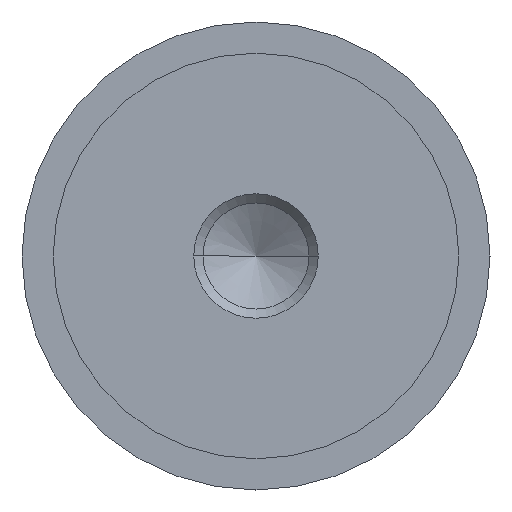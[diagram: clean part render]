
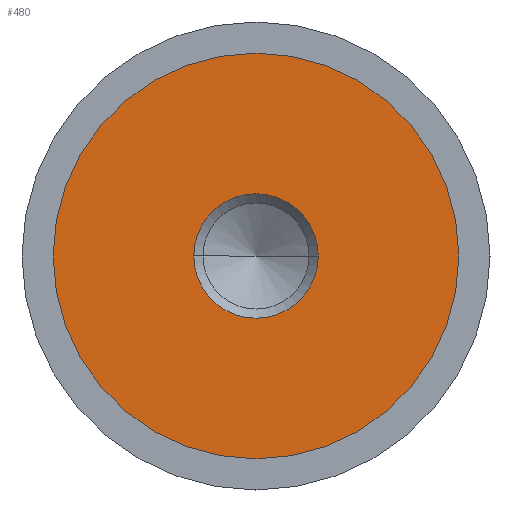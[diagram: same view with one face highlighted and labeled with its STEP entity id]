
A CAD part, left-side view. The second image highlights one B-rep face of the part: STEP entity #480.
In plain terms, the highlighted planar face has unit normal (-1, 0, 0).
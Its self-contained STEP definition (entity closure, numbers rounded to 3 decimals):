
#22 = VERTEX_POINT ( 'NONE', #640 ) ;
#64 = CARTESIAN_POINT ( 'NONE',  ( -12.49, 0., 0. ) ) ;
#80 = CARTESIAN_POINT ( 'NONE',  ( -12.49, 3.99, 0. ) ) ;
#89 = CARTESIAN_POINT ( 'NONE',  ( -12.49, 0., 0. ) ) ;
#90 = EDGE_CURVE ( 'NONE', #105, #255, #676, .T. ) ;
#92 = CIRCLE ( 'NONE', #334, 3.99 ) ;
#105 = VERTEX_POINT ( 'NONE', #535 ) ;
#111 = EDGE_CURVE ( 'NONE', #281, #22, #739, .T. ) ;
#119 = DIRECTION ( 'NONE',  ( 0., 0., 1. ) ) ;
#235 = ORIENTED_EDGE ( 'NONE', *, *, #328, .T. ) ;
#250 = DIRECTION ( 'NONE',  ( 0., 0., -1. ) ) ;
#254 = DIRECTION ( 'NONE',  ( -1., 0., 0. ) ) ;
#255 = VERTEX_POINT ( 'NONE', #80 ) ;
#279 = DIRECTION ( 'NONE',  ( 0., 0., 1. ) ) ;
#281 = VERTEX_POINT ( 'NONE', #348 ) ;
#311 = ORIENTED_EDGE ( 'NONE', *, *, #111, .T. ) ;
#319 = CIRCLE ( 'NONE', #423, 13. ) ;
#328 = EDGE_CURVE ( 'NONE', #22, #281, #319, .T. ) ;
#334 = AXIS2_PLACEMENT_3D ( 'NONE', #89, #465, #339 ) ;
#339 = DIRECTION ( 'NONE',  ( 0., 0., -1. ) ) ;
#343 = AXIS2_PLACEMENT_3D ( 'NONE', #367, #653, #250 ) ;
#345 = DIRECTION ( 'NONE',  ( -1., 0., 0. ) ) ;
#348 = CARTESIAN_POINT ( 'NONE',  ( -12.49, 0., -13. ) ) ;
#352 = CARTESIAN_POINT ( 'NONE',  ( -12.49, 13., 0. ) ) ;
#366 = PLANE ( 'NONE',  #407 ) ;
#367 = CARTESIAN_POINT ( 'NONE',  ( -12.49, 0., 0. ) ) ;
#407 = AXIS2_PLACEMENT_3D ( 'NONE', #352, #476, #426 ) ;
#423 = AXIS2_PLACEMENT_3D ( 'NONE', #631, #345, #279 ) ;
#426 = DIRECTION ( 'NONE',  ( 0., 0., -1. ) ) ;
#429 = FACE_BOUND ( 'NONE', #440, .T. ) ;
#433 = FACE_OUTER_BOUND ( 'NONE', #691, .T. ) ;
#438 = AXIS2_PLACEMENT_3D ( 'NONE', #64, #254, #119 ) ;
#440 = EDGE_LOOP ( 'NONE', ( #777, #613 ) ) ;
#465 = DIRECTION ( 'NONE',  ( 1., 0., 0. ) ) ;
#476 = DIRECTION ( 'NONE',  ( 1., 0., 0. ) ) ;
#480 = ADVANCED_FACE ( 'NONE', ( #429, #433 ), #366, .F. ) ;
#535 = CARTESIAN_POINT ( 'NONE',  ( -12.49, -3.99, 0. ) ) ;
#613 = ORIENTED_EDGE ( 'NONE', *, *, #710, .T. ) ;
#631 = CARTESIAN_POINT ( 'NONE',  ( -12.49, 0., 0. ) ) ;
#640 = CARTESIAN_POINT ( 'NONE',  ( -12.49, 0., 13. ) ) ;
#653 = DIRECTION ( 'NONE',  ( 1., 0., 0. ) ) ;
#676 = CIRCLE ( 'NONE', #343, 3.99 ) ;
#691 = EDGE_LOOP ( 'NONE', ( #235, #311 ) ) ;
#710 = EDGE_CURVE ( 'NONE', #255, #105, #92, .T. ) ;
#739 = CIRCLE ( 'NONE', #438, 13. ) ;
#777 = ORIENTED_EDGE ( 'NONE', *, *, #90, .T. ) ;
